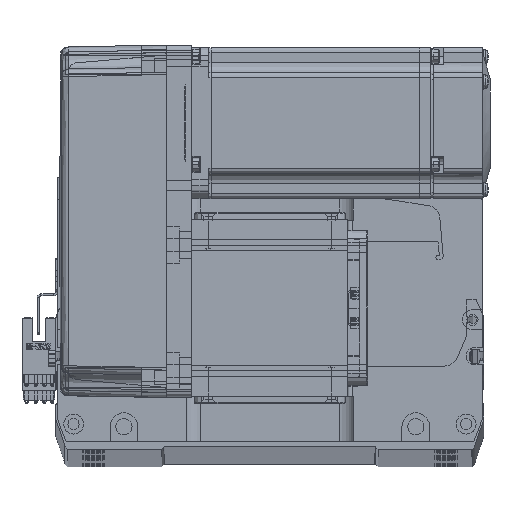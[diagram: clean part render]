
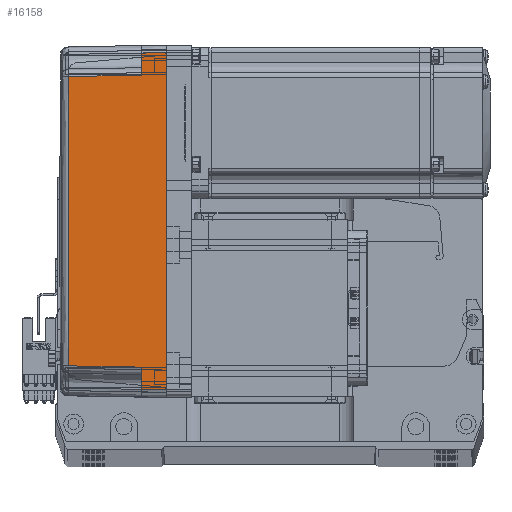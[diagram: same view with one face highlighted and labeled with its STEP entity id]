
A CAD part, top view. The second image highlights one B-rep face of the part: STEP entity #16158.
In plain terms, the highlighted planar face has unit normal (-0.018, 0, 1) as drawn and (0, 1, 0.017) by its records, which use the part's own axes.
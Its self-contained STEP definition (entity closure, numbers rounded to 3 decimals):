
#256 = ORIENTED_EDGE ( 'NONE', *, *, #69725, .F. ) ;
#540 = DIRECTION ( 'NONE',  ( 0.017, -0.017, 1. ) ) ;
#618 = CARTESIAN_POINT ( 'NONE',  ( 57.495, 35.32, 38.985 ) ) ;
#1323 = CARTESIAN_POINT ( 'NONE',  ( -58., 35.825, 10. ) ) ;
#2106 = VECTOR ( 'NONE', #34510, 1000. ) ;
#2712 = DIRECTION ( 'NONE',  ( -0.017, -0.017, 1. ) ) ;
#3017 = VECTOR ( 'NONE', #34498, 1000. ) ;
#3251 = CARTESIAN_POINT ( 'NONE',  ( 19.165, 35.316, 39.181 ) ) ;
#3490 = CARTESIAN_POINT ( 'NONE',  ( 57.495, 35.32, 38.985 ) ) ;
#4708 = LINE ( 'NONE', #1323, #13722 ) ;
#6620 = VERTEX_POINT ( 'NONE', #15809 ) ;
#12598 = EDGE_CURVE ( 'NONE', #44424, #73682, #47800, .T. ) ;
#13722 = VECTOR ( 'NONE', #35694, 1000. ) ;
#15725 = EDGE_CURVE ( 'NONE', #61792, #54942, #44564, .T. ) ;
#15809 = CARTESIAN_POINT ( 'NONE',  ( 57.495, 35.32, 38.985 ) ) ;
#16158 = ADVANCED_FACE ( 'NONE', ( #32739 ), #63147, .T. ) ;
#16585 = EDGE_LOOP ( 'NONE', ( #27015, #49655, #47470, #19191, #18126, #34609, #55259, #256 ) ) ;
#17537 = LINE ( 'NONE', #618, #2106 ) ;
#18126 = ORIENTED_EDGE ( 'NONE', *, *, #73729, .T. ) ;
#19021 = CARTESIAN_POINT ( 'NONE',  ( -67., 36., 0. ) ) ;
#19191 = ORIENTED_EDGE ( 'NONE', *, *, #41814, .T. ) ;
#20430 = CARTESIAN_POINT ( 'NONE',  ( 70., 35.825, 10. ) ) ;
#21733 = VERTEX_POINT ( 'NONE', #34490 ) ;
#23485 = VECTOR ( 'NONE', #40890, 1000. ) ;
#24733 = EDGE_CURVE ( 'NONE', #28601, #44424, #65509, .T. ) ;
#27005 = CARTESIAN_POINT ( 'NONE',  ( -19.165, 35.316, 39.181 ) ) ;
#27015 = ORIENTED_EDGE ( 'NONE', *, *, #24733, .T. ) ;
#27234 = CARTESIAN_POINT ( 'NONE',  ( -67., 36., 0. ) ) ;
#28601 = VERTEX_POINT ( 'NONE', #27234 ) ;
#32739 = FACE_OUTER_BOUND ( 'NONE', #16585, .T. ) ;
#33720 = LINE ( 'NONE', #42106, #41772 ) ;
#34490 = CARTESIAN_POINT ( 'NONE',  ( 67., 36., 0. ) ) ;
#34498 = DIRECTION ( 'NONE',  ( 1., 0., 0. ) ) ;
#34510 = DIRECTION ( 'NONE',  ( 0.017, 0.017, -1. ) ) ;
#34609 = ORIENTED_EDGE ( 'NONE', *, *, #15725, .T. ) ;
#34767 = CARTESIAN_POINT ( 'NONE',  ( 70., 35.825, 10. ) ) ;
#35694 = DIRECTION ( 'NONE',  ( 0.017, -0.017, 1. ) ) ;
#36984 = EDGE_CURVE ( 'NONE', #21733, #54942, #33720, .T. ) ;
#38224 = CARTESIAN_POINT ( 'NONE',  ( 66.826, 35.825, 10. ) ) ;
#40571 = VECTOR ( 'NONE', #65757, 1000. ) ;
#40890 = DIRECTION ( 'NONE',  ( 1., 0., 0. ) ) ;
#41411 = B_SPLINE_CURVE_WITH_KNOTS ( 'NONE', 3,
 ( #72329, #27005, #3251, #3490 ),
 .UNSPECIFIED., .F., .F.,
 ( 4, 4 ),
 ( 0., 1. ),
 .UNSPECIFIED. ) ;
#41772 = VECTOR ( 'NONE', #2712, 1000. ) ;
#41814 = EDGE_CURVE ( 'NONE', #42562, #6620, #41411, .T. ) ;
#42106 = CARTESIAN_POINT ( 'NONE',  ( 67.001, 36.001, -0.052 ) ) ;
#42562 = VERTEX_POINT ( 'NONE', #57778 ) ;
#44424 = VERTEX_POINT ( 'NONE', #48820 ) ;
#44564 = LINE ( 'NONE', #34767, #3017 ) ;
#45503 = CARTESIAN_POINT ( 'NONE',  ( 70., 36., 0. ) ) ;
#45818 = AXIS2_PLACEMENT_3D ( 'NONE', #45503, #74248, #51794 ) ;
#47470 = ORIENTED_EDGE ( 'NONE', *, *, #56148, .T. ) ;
#47800 = LINE ( 'NONE', #20430, #40571 ) ;
#48627 = CARTESIAN_POINT ( 'NONE',  ( 58., 35.825, 10. ) ) ;
#48820 = CARTESIAN_POINT ( 'NONE',  ( -66.826, 35.825, 10. ) ) ;
#49655 = ORIENTED_EDGE ( 'NONE', *, *, #12598, .T. ) ;
#51794 = DIRECTION ( 'NONE',  ( 0., -0.017, 1. ) ) ;
#51860 = CARTESIAN_POINT ( 'NONE',  ( -58., 35.825, 10. ) ) ;
#52009 = CARTESIAN_POINT ( 'NONE',  ( 0., 36., 0. ) ) ;
#54942 = VERTEX_POINT ( 'NONE', #38224 ) ;
#55259 = ORIENTED_EDGE ( 'NONE', *, *, #36984, .F. ) ;
#56102 = LINE ( 'NONE', #52009, #23485 ) ;
#56148 = EDGE_CURVE ( 'NONE', #73682, #42562, #4708, .T. ) ;
#57778 = CARTESIAN_POINT ( 'NONE',  ( -57.495, 35.32, 38.985 ) ) ;
#61792 = VERTEX_POINT ( 'NONE', #48627 ) ;
#61928 = VECTOR ( 'NONE', #540, 1000. ) ;
#63147 = PLANE ( 'NONE',  #45818 ) ;
#65509 = LINE ( 'NONE', #19021, #61928 ) ;
#65757 = DIRECTION ( 'NONE',  ( 1., 0., 0. ) ) ;
#69725 = EDGE_CURVE ( 'NONE', #28601, #21733, #56102, .T. ) ;
#72329 = CARTESIAN_POINT ( 'NONE',  ( -57.495, 35.32, 38.985 ) ) ;
#73682 = VERTEX_POINT ( 'NONE', #51860 ) ;
#73729 = EDGE_CURVE ( 'NONE', #6620, #61792, #17537, .T. ) ;
#74248 = DIRECTION ( 'NONE',  ( 0., 1., 0.017 ) ) ;
